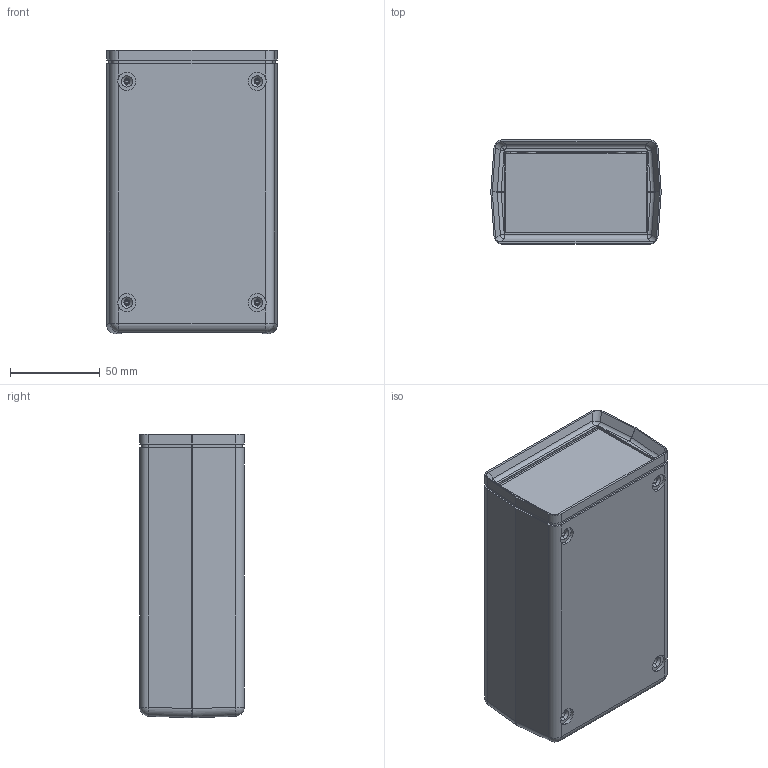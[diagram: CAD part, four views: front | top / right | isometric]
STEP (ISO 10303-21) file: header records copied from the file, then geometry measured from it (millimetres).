
FILE_DESCRIPTION (( 'STEP AP214' ), '1' );
FILE_NAME ('UOOM-220.STEP', '2020-05-22T22:48:25', ( 'Rudy' ), ( '' ), 'SwSTEP 2.0', 'SolidWorks 2014', '' );
FILE_SCHEMA (( 'AUTOMOTIVE_DESIGN' ));
Length unit declared in the file: inch
Products named in the file (4): UOOM-top high; UOOM-220; UOOM-bottom high; UOOM PANEL 220
Assembly tree (4 placements, depth 2):
  UOOM-220
    UOOM-bottom high
    UOOM-top high
    UOOM PANEL 220  x2
Bounding box: 94.79 x 58.12 x 157.86 mm (x, y, z)
Volume: 167153.8 mm3; surface area: 126917.6 mm2
Topology: 4 solids, 4 shells, 737 faces, 1950 edges, 1251 vertices
Faces by surface type: plane 364, cylinder 220, cone 92, torus 44, bspline 11, sphere 6
Entity records: 23146 total; most frequent: CARTESIAN_POINT 4602, DIRECTION 3909, ORIENTED_EDGE 3868, EDGE_CURVE 1934, AXIS2_PLACEMENT_3D 1350, VERTEX_POINT 1243, LINE 1209, VECTOR 1209
